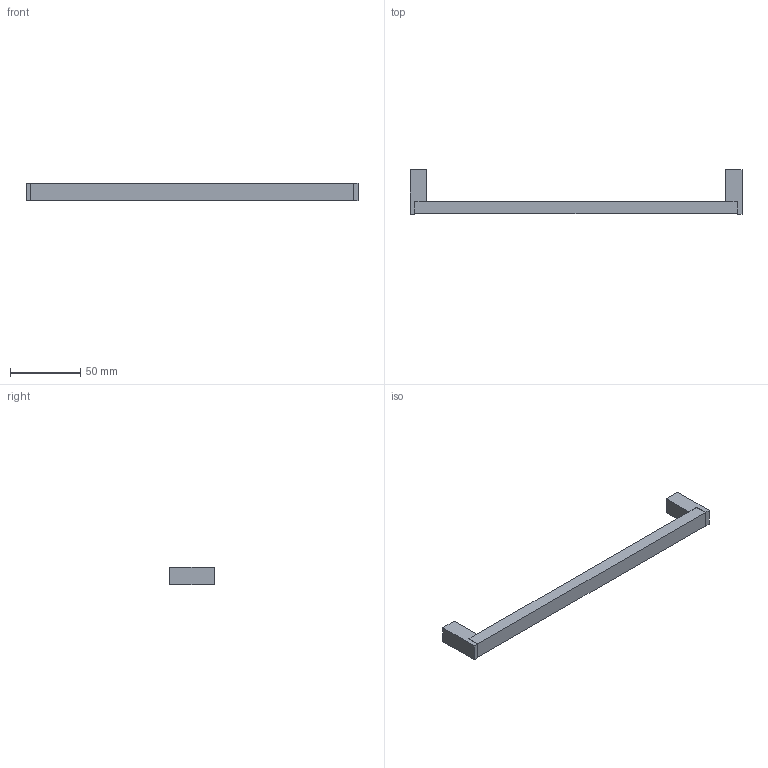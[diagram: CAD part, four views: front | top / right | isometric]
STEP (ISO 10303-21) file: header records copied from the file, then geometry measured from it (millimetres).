
FILE_DESCRIPTION( ( 'STEP AP214' ), '1' );
FILE_NAME( 'C:/Users/kulkarni/Desktop/Apurva/2015/Prodecor_2016/Cadfiles/bermeo/9208077.stp', ' ', ( ' ' ), ( ' ' ), 'PSStep 15.0.47', 'PARTsolutions', ' ' );
FILE_SCHEMA( ( 'AUTOMOTIVE_DESIGN { 1 0 10303 214 1 1 1 1 }' ) );
Length unit declared in the file: millimetre
Products named in the file (1): _
Bounding box: 237 x 32 x 12.15 mm (x, y, z)
Volume: 30540.2 mm3; surface area: 12660.6 mm2
Topology: 1 solids, 1 shells, 26 faces, 62 edges, 40 vertices
Faces by surface type: plane 24, cylinder 2
Full cylindrical faces by diameter (mm): 5 x2
Entity records: 952 total; most frequent: CARTESIAN_POINT 127, ORIENTED_EDGE 120, DIRECTION 118, EDGE_CURVE 60, LINE 56, VECTOR 56, VERTEX_POINT 40, AXIS2_PLACEMENT_3D 31
